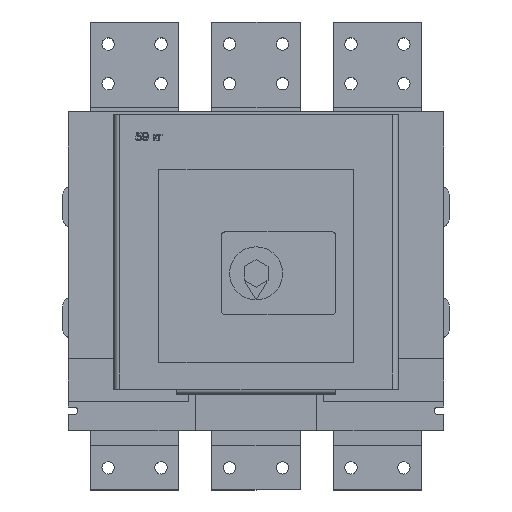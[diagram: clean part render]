
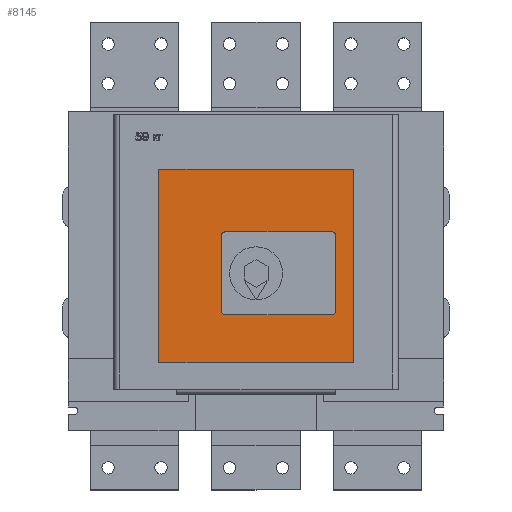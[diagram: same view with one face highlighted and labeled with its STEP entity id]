
A CAD part, top view. The second image highlights one B-rep face of the part: STEP entity #8145.
In plain terms, the highlighted planar face has unit normal (0, 0, 1).
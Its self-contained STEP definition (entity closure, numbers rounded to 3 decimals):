
#5 = DIRECTION ( 'NONE',  ( 0., 1., 0. ) ) ;
#96 = EDGE_CURVE ( 'NONE', #3888, #7776, #2406, .T. ) ;
#125 = CIRCLE ( 'NONE', #9118, 5. ) ;
#171 = DIRECTION ( 'NONE',  ( -1., 0., 0. ) ) ;
#187 = ORIENTED_EDGE ( 'NONE', *, *, #3666, .F. ) ;
#259 = AXIS2_PLACEMENT_3D ( 'NONE', #7484, #3052, #8218 ) ;
#296 = EDGE_CURVE ( 'NONE', #5055, #6750, #1804, .T. ) ;
#299 = DIRECTION ( 'NONE',  ( 0., -1., 0. ) ) ;
#301 = ORIENTED_EDGE ( 'NONE', *, *, #4115, .F. ) ;
#314 = ORIENTED_EDGE ( 'NONE', *, *, #96, .F. ) ;
#364 = ORIENTED_EDGE ( 'NONE', *, *, #9331, .F. ) ;
#585 = CARTESIAN_POINT ( 'NONE',  ( 298.1, 225., 266.8 ) ) ;
#612 = VERTEX_POINT ( 'NONE', #8274 ) ;
#630 = CARTESIAN_POINT ( 'NONE',  ( 102.6, 77., 266.8 ) ) ;
#654 = VERTEX_POINT ( 'NONE', #3884 ) ;
#657 = CARTESIAN_POINT ( 'NONE',  ( 322.6, 77., 266.8 ) ) ;
#706 = CARTESIAN_POINT ( 'NONE',  ( 178.1, 131., 266.8 ) ) ;
#889 = CIRCLE ( 'NONE', #259, 5. ) ;
#921 = ORIENTED_EDGE ( 'NONE', *, *, #3213, .F. ) ;
#1424 = VERTEX_POINT ( 'NONE', #585 ) ;
#1426 = DIRECTION ( 'NONE',  ( -1., 0., 0. ) ) ;
#1577 = CARTESIAN_POINT ( 'NONE',  ( 322.6, 296., 266.8 ) ) ;
#1614 = VECTOR ( 'NONE', #3936, 1000. ) ;
#1666 = ORIENTED_EDGE ( 'NONE', *, *, #6546, .F. ) ;
#1684 = CARTESIAN_POINT ( 'NONE',  ( 0., 0., 266.8 ) ) ;
#1688 = CARTESIAN_POINT ( 'NONE',  ( 173.1, 220., 266.8 ) ) ;
#1804 = LINE ( 'NONE', #630, #1614 ) ;
#2110 = CARTESIAN_POINT ( 'NONE',  ( 322.6, 77., 266.8 ) ) ;
#2198 = LINE ( 'NONE', #1577, #2466 ) ;
#2361 = VECTOR ( 'NONE', #3186, 1000. ) ;
#2406 = LINE ( 'NONE', #706, #2361 ) ;
#2466 = VECTOR ( 'NONE', #171, 1000. ) ;
#2528 = VERTEX_POINT ( 'NONE', #5779 ) ;
#2590 = EDGE_CURVE ( 'NONE', #7776, #3113, #4029, .T. ) ;
#2779 = DIRECTION ( 'NONE',  ( 1., 0., 0. ) ) ;
#2803 = DIRECTION ( 'NONE',  ( 0., 1., 0. ) ) ;
#2815 = ORIENTED_EDGE ( 'NONE', *, *, #6001, .F. ) ;
#2919 = DIRECTION ( 'NONE',  ( 0., 0., 1. ) ) ;
#2969 = ORIENTED_EDGE ( 'NONE', *, *, #296, .T. ) ;
#3012 = CARTESIAN_POINT ( 'NONE',  ( 298.1, 136., 266.8 ) ) ;
#3052 = DIRECTION ( 'NONE',  ( 0., 0., 1. ) ) ;
#3081 = ORIENTED_EDGE ( 'NONE', *, *, #4802, .T. ) ;
#3113 = VERTEX_POINT ( 'NONE', #7878 ) ;
#3144 = DIRECTION ( 'NONE',  ( 0., 0., 1. ) ) ;
#3186 = DIRECTION ( 'NONE',  ( 1., 0., 0. ) ) ;
#3213 = EDGE_CURVE ( 'NONE', #5086, #3888, #4043, .T. ) ;
#3301 = VECTOR ( 'NONE', #2779, 1000. ) ;
#3561 = DIRECTION ( 'NONE',  ( 0., 0., 1. ) ) ;
#3602 = EDGE_CURVE ( 'NONE', #6750, #4039, #5766, .T. ) ;
#3666 = EDGE_CURVE ( 'NONE', #1424, #612, #4460, .T. ) ;
#3689 = DIRECTION ( 'NONE',  ( 0., 0., 1. ) ) ;
#3884 = CARTESIAN_POINT ( 'NONE',  ( 322.6, 296., 266.8 ) ) ;
#3888 = VERTEX_POINT ( 'NONE', #7572 ) ;
#3936 = DIRECTION ( 'NONE',  ( 0., -1., 0. ) ) ;
#4029 = CIRCLE ( 'NONE', #5279, 5. ) ;
#4039 = VERTEX_POINT ( 'NONE', #8739 ) ;
#4043 = CIRCLE ( 'NONE', #8929, 5. ) ;
#4085 = AXIS2_PLACEMENT_3D ( 'NONE', #1684, #3144, #8317 ) ;
#4115 = EDGE_CURVE ( 'NONE', #6819, #1424, #125, .T. ) ;
#4367 = EDGE_LOOP ( 'NONE', ( #301, #364, #8382, #314, #921, #2815, #1666, #187 ) ) ;
#4460 = LINE ( 'NONE', #6551, #5834 ) ;
#4745 = VECTOR ( 'NONE', #299, 1000. ) ;
#4801 = LINE ( 'NONE', #1688, #4745 ) ;
#4802 = EDGE_CURVE ( 'NONE', #654, #5055, #2198, .T. ) ;
#4822 = CARTESIAN_POINT ( 'NONE',  ( 298.1, 131., 266.8 ) ) ;
#4856 = EDGE_LOOP ( 'NONE', ( #5847, #3081, #2969, #9154 ) ) ;
#4880 = CARTESIAN_POINT ( 'NONE',  ( 102.6, 77., 266.8 ) ) ;
#5055 = VERTEX_POINT ( 'NONE', #9226 ) ;
#5086 = VERTEX_POINT ( 'NONE', #6281 ) ;
#5158 = VECTOR ( 'NONE', #2803, 1000. ) ;
#5181 = LINE ( 'NONE', #9418, #5158 ) ;
#5246 = EDGE_CURVE ( 'NONE', #4039, #654, #9348, .T. ) ;
#5279 = AXIS2_PLACEMENT_3D ( 'NONE', #3012, #3689, #7378 ) ;
#5766 = LINE ( 'NONE', #657, #3301 ) ;
#5779 = CARTESIAN_POINT ( 'NONE',  ( 173.1, 220., 266.8 ) ) ;
#5834 = VECTOR ( 'NONE', #1426, 1000. ) ;
#5847 = ORIENTED_EDGE ( 'NONE', *, *, #5246, .T. ) ;
#6001 = EDGE_CURVE ( 'NONE', #2528, #5086, #4801, .T. ) ;
#6281 = CARTESIAN_POINT ( 'NONE',  ( 173.1, 136., 266.8 ) ) ;
#6496 = CARTESIAN_POINT ( 'NONE',  ( 303.1, 220., 266.8 ) ) ;
#6546 = EDGE_CURVE ( 'NONE', #612, #2528, #889, .T. ) ;
#6551 = CARTESIAN_POINT ( 'NONE',  ( 298.1, 225., 266.8 ) ) ;
#6750 = VERTEX_POINT ( 'NONE', #4880 ) ;
#6819 = VERTEX_POINT ( 'NONE', #6496 ) ;
#6844 = PLANE ( 'NONE',  #4085 ) ;
#7258 = FACE_OUTER_BOUND ( 'NONE', #4856, .T. ) ;
#7269 = FACE_BOUND ( 'NONE', #4367, .T. ) ;
#7346 = CARTESIAN_POINT ( 'NONE',  ( 298.1, 220., 266.8 ) ) ;
#7378 = DIRECTION ( 'NONE',  ( 1., 0., 0. ) ) ;
#7484 = CARTESIAN_POINT ( 'NONE',  ( 178.1, 220., 266.8 ) ) ;
#7527 = VECTOR ( 'NONE', #5, 1000. ) ;
#7572 = CARTESIAN_POINT ( 'NONE',  ( 178.1, 131., 266.8 ) ) ;
#7776 = VERTEX_POINT ( 'NONE', #4822 ) ;
#7878 = CARTESIAN_POINT ( 'NONE',  ( 303.1, 136., 266.8 ) ) ;
#8013 = CARTESIAN_POINT ( 'NONE',  ( 178.1, 136., 266.8 ) ) ;
#8076 = DIRECTION ( 'NONE',  ( 1., 0., 0. ) ) ;
#8145 = ADVANCED_FACE ( 'NONE', ( #7269, #7258 ), #6844, .T. ) ;
#8218 = DIRECTION ( 'NONE',  ( 1., 0., 0. ) ) ;
#8274 = CARTESIAN_POINT ( 'NONE',  ( 178.1, 225., 266.8 ) ) ;
#8317 = DIRECTION ( 'NONE',  ( 1., 0., 0. ) ) ;
#8382 = ORIENTED_EDGE ( 'NONE', *, *, #2590, .F. ) ;
#8739 = CARTESIAN_POINT ( 'NONE',  ( 322.6, 77., 266.8 ) ) ;
#8775 = DIRECTION ( 'NONE',  ( 1., 0., 0. ) ) ;
#8929 = AXIS2_PLACEMENT_3D ( 'NONE', #8013, #3561, #8775 ) ;
#9118 = AXIS2_PLACEMENT_3D ( 'NONE', #7346, #2919, #8076 ) ;
#9154 = ORIENTED_EDGE ( 'NONE', *, *, #3602, .T. ) ;
#9226 = CARTESIAN_POINT ( 'NONE',  ( 102.6, 296., 266.8 ) ) ;
#9331 = EDGE_CURVE ( 'NONE', #3113, #6819, #5181, .T. ) ;
#9348 = LINE ( 'NONE', #2110, #7527 ) ;
#9418 = CARTESIAN_POINT ( 'NONE',  ( 303.1, 136., 266.8 ) ) ;
